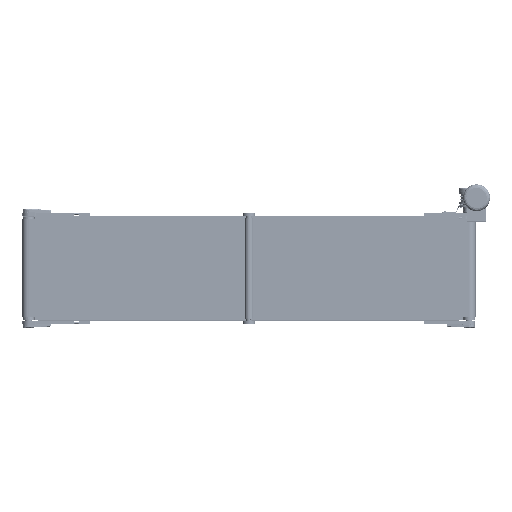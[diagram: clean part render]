
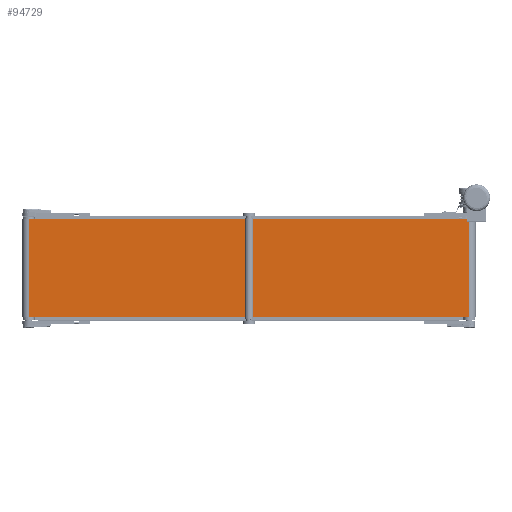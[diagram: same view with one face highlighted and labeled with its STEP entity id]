
A CAD part, front view. The second image highlights one B-rep face of the part: STEP entity #94729.
In plain terms, the highlighted planar face has unit normal (0, -1, 0).
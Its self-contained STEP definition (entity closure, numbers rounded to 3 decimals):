
#13487 = VERTEX_POINT ( 'NONE', #27053 ) ;
#17009 = DIRECTION ( 'NONE',  ( 0., 0., -1. ) ) ;
#21580 = CARTESIAN_POINT ( 'NONE',  ( -900., -27., -200. ) ) ;
#21774 = VECTOR ( 'NONE', #17009, 1000. ) ;
#25413 = CARTESIAN_POINT ( 'NONE',  ( -900., -27., 200. ) ) ;
#26704 = VERTEX_POINT ( 'NONE', #21580 ) ;
#27053 = CARTESIAN_POINT ( 'NONE',  ( 900., -27., -200. ) ) ;
#27539 = VECTOR ( 'NONE', #64899, 1000. ) ;
#30974 = CARTESIAN_POINT ( 'NONE',  ( -900., -27., -200. ) ) ;
#44540 = EDGE_CURVE ( 'NONE', #83948, #26704, #128936, .T. ) ;
#51638 = EDGE_CURVE ( 'NONE', #137806, #13487, #71906, .T. ) ;
#52649 = LINE ( 'NONE', #139259, #27539 ) ;
#57480 = ORIENTED_EDGE ( 'NONE', *, *, #61492, .F. ) ;
#60284 = CARTESIAN_POINT ( 'NONE',  ( -900., -27., 200. ) ) ;
#61492 = EDGE_CURVE ( 'NONE', #83948, #137806, #52649, .T. ) ;
#64899 = DIRECTION ( 'NONE',  ( 1., 0., 0. ) ) ;
#66114 = LINE ( 'NONE', #30974, #121440 ) ;
#71906 = LINE ( 'NONE', #120148, #147984 ) ;
#73394 = AXIS2_PLACEMENT_3D ( 'NONE', #60284, #100267, #150099 ) ;
#83609 = ORIENTED_EDGE ( 'NONE', *, *, #44540, .T. ) ;
#83948 = VERTEX_POINT ( 'NONE', #25413 ) ;
#84801 = FACE_OUTER_BOUND ( 'NONE', #93984, .T. ) ;
#93984 = EDGE_LOOP ( 'NONE', ( #125145, #121401, #57480, #83609 ) ) ;
#94729 = ADVANCED_FACE ( 'NONE', ( #84801 ), #122377, .F. ) ;
#100267 = DIRECTION ( 'NONE',  ( 0., 1., 0. ) ) ;
#120148 = CARTESIAN_POINT ( 'NONE',  ( 900., -27., 200. ) ) ;
#120969 = DIRECTION ( 'NONE',  ( 0., 0., -1. ) ) ;
#121401 = ORIENTED_EDGE ( 'NONE', *, *, #51638, .F. ) ;
#121440 = VECTOR ( 'NONE', #153513, 1000. ) ;
#122377 = PLANE ( 'NONE',  #73394 ) ;
#124592 = EDGE_CURVE ( 'NONE', #26704, #13487, #66114, .T. ) ;
#125145 = ORIENTED_EDGE ( 'NONE', *, *, #124592, .T. ) ;
#128936 = LINE ( 'NONE', #129728, #21774 ) ;
#129728 = CARTESIAN_POINT ( 'NONE',  ( -900., -27., 200. ) ) ;
#137806 = VERTEX_POINT ( 'NONE', #158464 ) ;
#139259 = CARTESIAN_POINT ( 'NONE',  ( -900., -27., 200. ) ) ;
#147984 = VECTOR ( 'NONE', #120969, 1000. ) ;
#150099 = DIRECTION ( 'NONE',  ( 0., 0., 1. ) ) ;
#153513 = DIRECTION ( 'NONE',  ( 1., 0., 0. ) ) ;
#158464 = CARTESIAN_POINT ( 'NONE',  ( 900., -27., 200. ) ) ;
